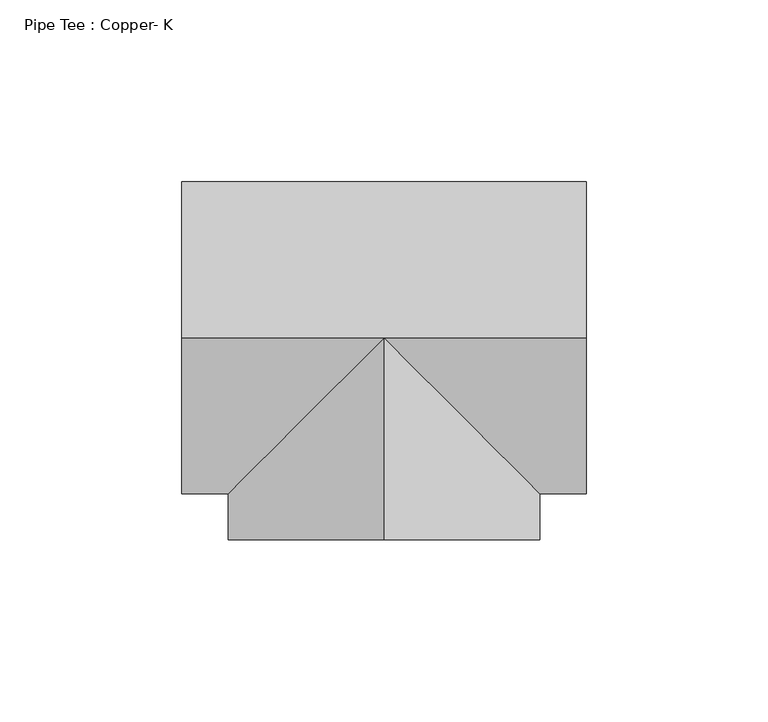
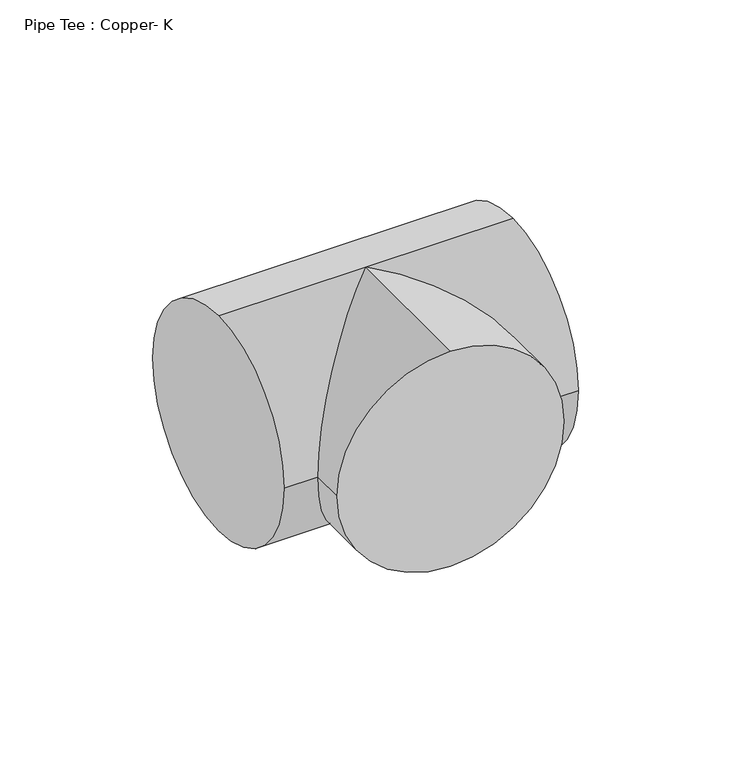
"""IFC4 building model written with IfcOpenShell, lengths in millimetres: pipe fitting geometry, Pipe Tee : Copper- K."""

from ifc_helpers import new_model, si_unit, frame, origin, place, context, project, spatial, circle_curve, ellipse_curve, source, transform, mapped, element, save
from ifc_brep_helpers import plane_surface, cylinder_surface, advanced_brep


def pipe_tee_copper_k_66279296(model_context):
    return source(origin(), model_context, "Body", "AdvancedBrep", [
        advanced_brep(
        [(-55.5625, 0.0, 42.8625), (-55.5625, 42.8625, 0.0), (-55.5625, 0.0, -42.8625), (-55.5625, -42.8625, 0.0), (55.5625, 0.0, 42.8625), (55.5625, -42.8625, 0.0), (55.5625, 0.0, -42.8625), (55.5625, 42.8625, 0.0), (0.0, 0.0, 42.8625), (0.0, 0.0, -42.8625), (-42.8625, -42.8625, 0.0), (42.8625, -42.8625, 0.0), (0.0, -55.5625, 42.8625), (-42.8625, -55.5625, 0.0), (0.0, -55.5625, -42.8625), (42.8625, -55.5625, 0.0)],
        [
            (0, 1, circle_curve(frame((-55.5625, 0.0, 0.0), z_axis=(-1.0, 0.0, 0.0), x_axis=(0.0, 1.0, 0.0)), 42.8625)),
            (1, 2, circle_curve(frame((-55.5625, 0.0, 0.0), z_axis=(-1.0, 0.0, 0.0), x_axis=(0.0, 1.0, 0.0)), 42.8625)),
            (2, 3, circle_curve(frame((-55.5625, 0.0, 0.0), z_axis=(-1.0, 0.0, 0.0), x_axis=(0.0, 1.0, 0.0)), 42.8625)),
            (3, 0, circle_curve(frame((-55.5625, 0.0, 0.0), z_axis=(-1.0, 0.0, 0.0), x_axis=(0.0, 1.0, 0.0)), 42.8625)),
            (4, 5, circle_curve(frame((55.5625, 0.0, 0.0), z_axis=(1.0, 0.0, 0.0), x_axis=(0.0, 1.0, 0.0)), 42.8625)),
            (5, 6, circle_curve(frame((55.5625, 0.0, 0.0), z_axis=(1.0, 0.0, 0.0), x_axis=(0.0, 1.0, 0.0)), 42.8625)),
            (6, 7, circle_curve(frame((55.5625, 0.0, 0.0), z_axis=(1.0, 0.0, 0.0), x_axis=(0.0, 1.0, 0.0)), 42.8625)),
            (7, 4, circle_curve(frame((55.5625, 0.0, 0.0), z_axis=(1.0, 0.0, 0.0), x_axis=(0.0, 1.0, 0.0)), 42.8625)),
            (0, 8),
            (8, 4),
            (7, 1),
            (6, 9),
            (9, 2),
            (9, 10, ellipse_curve(frame((0.0, 0.0, 0.0), z_axis=(-0.707106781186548, 0.7071067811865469, 0.0), x_axis=(-0.7071067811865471, -0.7071067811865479, 0.0)), 60.6167288, 42.8625)),
            (10, 3),
            (5, 11),
            (11, 9, ellipse_curve(frame((0.0, 0.0, 0.0), z_axis=(0.7071067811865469, 0.7071067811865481, 0.0), x_axis=(-0.7071067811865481, 0.7071067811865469, 0.0)), 60.6167288, 42.8625)),
            (10, 8, ellipse_curve(frame((0.0, 0.0, 0.0), z_axis=(-0.707106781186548, 0.7071067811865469, 0.0), x_axis=(-0.7071067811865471, -0.7071067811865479, 0.0)), 60.6167288, 42.8625)),
            (8, 11, ellipse_curve(frame((0.0, 0.0, 0.0), z_axis=(0.7071067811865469, 0.7071067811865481, 0.0), x_axis=(-0.7071067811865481, 0.7071067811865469, 0.0)), 60.6167288, 42.8625)),
            (12, 13, circle_curve(frame((0.0, -55.5625, 0.0), z_axis=(0.0, -1.0, 0.0), x_axis=(1.0, 0.0, 0.0)), 42.8625)),
            (13, 14, circle_curve(frame((0.0, -55.5625, 0.0), z_axis=(0.0, -1.0, 0.0), x_axis=(1.0, 0.0, 0.0)), 42.8625)),
            (14, 15, circle_curve(frame((0.0, -55.5625, 0.0), z_axis=(0.0, -1.0, 0.0), x_axis=(1.0, 0.0, 0.0)), 42.8625)),
            (15, 12, circle_curve(frame((0.0, -55.5625, 0.0), z_axis=(0.0, -1.0, 0.0), x_axis=(1.0, 0.0, 0.0)), 42.8625)),
            (15, 11),
            (8, 12),
            (14, 9),
            (13, 10),
        ],
        [
            plane_surface(frame((-55.5625, 0.0, 0.0), z_axis=(-1.0, 0.0, 0.0), x_axis=(0.0, 0.0, 1.0))),
            plane_surface(frame((55.5625, 0.0, 0.0), z_axis=(1.0, 0.0, 0.0), x_axis=(0.0, 0.0, 1.0))),
            cylinder_surface(frame((-55.5625, 0.0, 0.0), z_axis=(-1.0, 0.0, 0.0), x_axis=(0.0, 1.0, 0.0)), 42.8625),
            plane_surface(frame((0.0, -55.5625, 0.0), z_axis=(0.0, -1.0, 0.0), x_axis=(0.0, 0.0, 1.0))),
            cylinder_surface(frame((0.0, 0.0, 0.0), z_axis=(0.0, 1.0, 0.0), x_axis=(1.0, 0.0, 0.0)), 42.8625),
        ],
        [
            (0, [[1, 2, 3, 4]]),
            (1, [[5, 6, 7, 8]]),
            (2, [[-1, 9, 10, -8, 11]]),
            (2, [[-2, -11, -7, 12, 13]]),
            (2, [[-3, -13, 14, 15]]),
            (2, [[-6, 16, 17, -12]]),
            (2, [[-4, -15, 18, -9]]),
            (2, [[-5, -10, 19, -16]]),
            (3, [[20, 21, 22, 23]]),
            (4, [[-23, 24, -19, 25]]),
            (4, [[-22, 26, -17, -24]]),
            (4, [[-21, 27, -14, -26]]),
            (4, [[-20, -25, -18, -27]]),
        ],
    ),
        advanced_brep(
        [(-55.5625, 0.0, 42.8625), (-55.5625, 42.8625, 0.0), (-55.5625, 0.0, -42.8625), (-55.5625, -42.8625, 0.0), (55.5625, 0.0, 42.8625), (55.5625, -42.8625, 0.0), (55.5625, 0.0, -42.8625), (55.5625, 42.8625, 0.0), (0.0, 0.0, 42.8625), (0.0, 0.0, -42.8625), (-42.8625, -42.8625, 0.0), (42.8625, -42.8625, 0.0), (0.0, -55.5625, 42.8625), (-42.8625, -55.5625, 0.0), (0.0, -55.5625, -42.8625), (42.8625, -55.5625, 0.0)],
        [
            (0, 1, circle_curve(frame((-55.5625, 0.0, 0.0), z_axis=(-1.0, 0.0, 0.0), x_axis=(0.0, 1.0, 0.0)), 42.8625)),
            (1, 2, circle_curve(frame((-55.5625, 0.0, 0.0), z_axis=(-1.0, 0.0, 0.0), x_axis=(0.0, 1.0, 0.0)), 42.8625)),
            (2, 3, circle_curve(frame((-55.5625, 0.0, 0.0), z_axis=(-1.0, 0.0, 0.0), x_axis=(0.0, 1.0, 0.0)), 42.8625)),
            (3, 0, circle_curve(frame((-55.5625, 0.0, 0.0), z_axis=(-1.0, 0.0, 0.0), x_axis=(0.0, 1.0, 0.0)), 42.8625)),
            (4, 5, circle_curve(frame((55.5625, 0.0, 0.0), z_axis=(1.0, 0.0, 0.0), x_axis=(0.0, 1.0, 0.0)), 42.8625)),
            (5, 6, circle_curve(frame((55.5625, 0.0, 0.0), z_axis=(1.0, 0.0, 0.0), x_axis=(0.0, 1.0, 0.0)), 42.8625)),
            (6, 7, circle_curve(frame((55.5625, 0.0, 0.0), z_axis=(1.0, 0.0, 0.0), x_axis=(0.0, 1.0, 0.0)), 42.8625)),
            (7, 4, circle_curve(frame((55.5625, 0.0, 0.0), z_axis=(1.0, 0.0, 0.0), x_axis=(0.0, 1.0, 0.0)), 42.8625)),
            (0, 8),
            (8, 4),
            (7, 1),
            (6, 9),
            (9, 2),
            (9, 10, ellipse_curve(frame((0.0, 0.0, 0.0), z_axis=(-0.707106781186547, 0.7071067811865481, 0.0), x_axis=(-0.707106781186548, -0.707106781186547, 0.0)), 60.6167288, 42.8625)),
            (10, 3),
            (5, 11),
            (11, 9, ellipse_curve(frame((0.0, 0.0, 0.0), z_axis=(0.707106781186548, 0.7071067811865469, 0.0), x_axis=(-0.707106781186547, 0.707106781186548, 0.0)), 60.6167288, 42.8625)),
            (10, 8, ellipse_curve(frame((0.0, 0.0, 0.0), z_axis=(-0.707106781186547, 0.7071067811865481, 0.0), x_axis=(-0.707106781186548, -0.707106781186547, 0.0)), 60.6167288, 42.8625)),
            (8, 11, ellipse_curve(frame((0.0, 0.0, 0.0), z_axis=(0.707106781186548, 0.7071067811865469, 0.0), x_axis=(-0.707106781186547, 0.707106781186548, 0.0)), 60.6167288, 42.8625)),
            (12, 13, circle_curve(frame((0.0, -55.5625, 0.0), z_axis=(0.0, -1.0, 0.0), x_axis=(1.0, 0.0, 0.0)), 42.8625)),
            (13, 14, circle_curve(frame((0.0, -55.5625, 0.0), z_axis=(0.0, -1.0, 0.0), x_axis=(1.0, 0.0, 0.0)), 42.8625)),
            (14, 15, circle_curve(frame((0.0, -55.5625, 0.0), z_axis=(0.0, -1.0, 0.0), x_axis=(1.0, 0.0, 0.0)), 42.8625)),
            (15, 12, circle_curve(frame((0.0, -55.5625, 0.0), z_axis=(0.0, -1.0, 0.0), x_axis=(1.0, 0.0, 0.0)), 42.8625)),
            (15, 11),
            (8, 12),
            (14, 9),
            (13, 10),
        ],
        [
            plane_surface(frame((-55.5625, 0.0, 0.0), z_axis=(-1.0, 0.0, 0.0), x_axis=(0.0, 0.0, 1.0))),
            plane_surface(frame((55.5625, 0.0, 0.0), z_axis=(1.0, 0.0, 0.0), x_axis=(0.0, 0.0, 1.0))),
            cylinder_surface(frame((-55.5625, 0.0, 0.0), z_axis=(-1.0, 0.0, 0.0), x_axis=(0.0, 1.0, 0.0)), 42.8625),
            plane_surface(frame((0.0, -55.5625, 0.0), z_axis=(0.0, -1.0, 0.0), x_axis=(0.0, 0.0, 1.0))),
            cylinder_surface(frame((0.0, 0.0, 0.0), z_axis=(0.0, 1.0, 0.0), x_axis=(1.0, 0.0, 0.0)), 42.8625),
        ],
        [
            (0, [[1, 2, 3, 4]]),
            (1, [[5, 6, 7, 8]]),
            (2, [[-1, 9, 10, -8, 11]]),
            (2, [[-2, -11, -7, 12, 13]]),
            (2, [[-3, -13, 14, 15]]),
            (2, [[-6, 16, 17, -12]]),
            (2, [[-4, -15, 18, -9]]),
            (2, [[-5, -10, 19, -16]]),
            (3, [[20, 21, 22, 23]]),
            (4, [[-23, 24, -19, 25]]),
            (4, [[-22, 26, -17, -24]]),
            (4, [[-21, 27, -14, -26]]),
            (4, [[-20, -25, -18, -27]]),
        ],
    ),
    ])


if __name__ == "__main__":
    model = new_model("IFC4")
    model_context = context("Model", 3, world=origin())
    ifc_project = project(units=[si_unit("LENGTHUNIT", "METRE", prefix="MILLI")], contexts=[model_context])
    site = spatial("IfcSite", under=ifc_project)
    building = spatial("IfcBuilding", under=site)
    placement = place(None, origin())
    pipe_tee_copper_k_shape = pipe_tee_copper_k_66279296(model_context)
    element("IfcPipeFitting", 1, ObjectType="Pipe Tee : Copper- K", at=placement, inside=building, context=model_context, shape_type="MappedRepresentation", body=[
        mapped(pipe_tee_copper_k_shape, transform((0.0, 0.0, 0.0), x_axis=(1.0, 0.0, 0.0), y_axis=(0.0, 1.0, 0.0), z_axis=(0.0, 0.0, 1.0))),
    ])
    save(model, "model.ifc")
